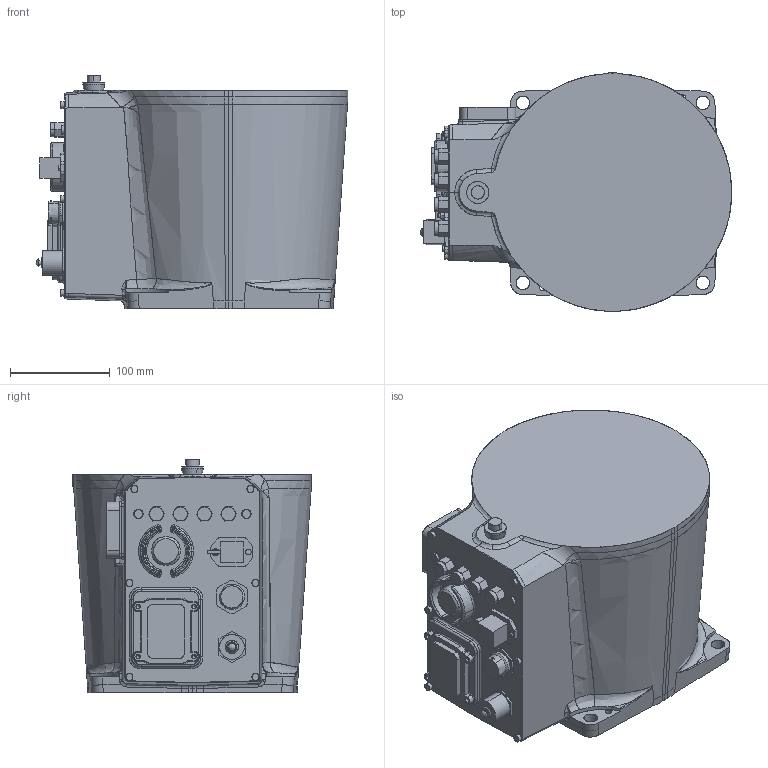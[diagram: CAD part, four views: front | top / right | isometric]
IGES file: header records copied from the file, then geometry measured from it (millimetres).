
Start section: SolidWorks IGES file using analytic representation for surfaces
Global section: file name: C:\Users\CNSHAN\Desktop\IRB1200H Light Weight Model\IRB1200H_7-70_IRC5_rev0_joints\IRB1200H_7-705-90_IRC5_Base_Standard_rev0.igs; native system: SolidWorks 2020; preprocessor: SolidWorks 2020; author: CNSHAN; date: 220117.163513; units: millimetre
Bounding box: 311.7 x 239.07 x 234 mm (x, y, z)
Surface area: 313580.8 mm2 (no closed solid volume)
Topology: 0 solids, 0 shells, 736 faces, 8172 edges, 8158 vertices
Faces by surface type: bspline 397, revolution 339
